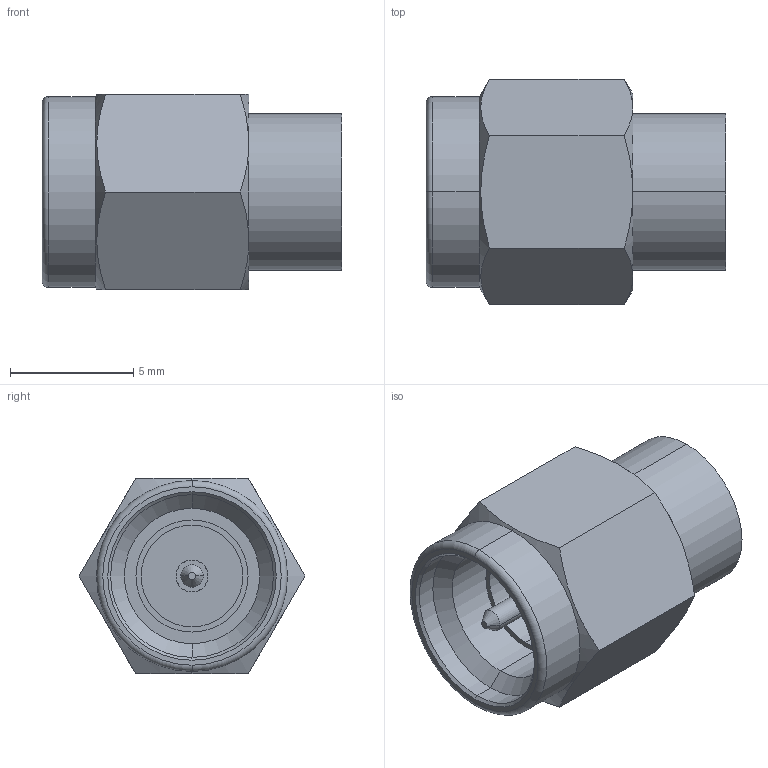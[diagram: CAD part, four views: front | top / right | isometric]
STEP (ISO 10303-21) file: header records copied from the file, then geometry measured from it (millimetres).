
FILE_DESCRIPTION (( 'STEP AP203' ), '1' );
FILE_NAME ('SF8018-6005.STEP', '2017-05-04T19:10:02', ( '' ), ( '' ), 'SwSTEP 2.0', 'SolidWorks 2016', '' );
FILE_SCHEMA (( 'CONFIG_CONTROL_DESIGN' ));
Length unit declared in the file: inch
Products named in the file (10): 0501-8053; 251-80-048; 077-29-036; 220-29-000; 015-29-000; 040-29-001; 012-80-333; 033-80-275; SF8018-6005; 244-80-236
Assembly tree (8 placements, depth 3):
  0501-8053
  SF8018-6005
    220-29-000
    015-29-000
    040-29-001
    251-80-048
      012-80-333
      033-80-275
      244-80-236
    077-29-036
Bounding box: 12.15 x 9.15 x 7.92 mm (x, y, z)
Volume: 262.7 mm3; surface area: 1041.7 mm2
Topology: 7 solids, 7 shells, 118 faces, 244 edges, 156 vertices
Faces by surface type: cylinder 58, plane 38, cone 20, torus 2
Entity records: 4301 total; most frequent: CARTESIAN_POINT 638, DIRECTION 618, ORIENTED_EDGE 488, AXIS2_PLACEMENT_3D 264, EDGE_CURVE 244, VERTEX_POINT 156, EDGE_LOOP 142, CIRCLE 134
